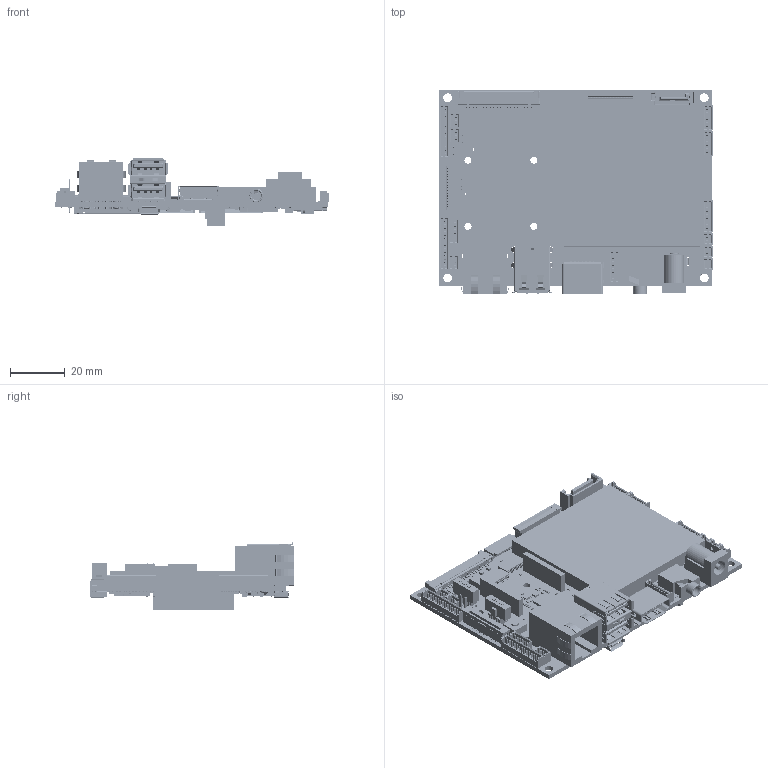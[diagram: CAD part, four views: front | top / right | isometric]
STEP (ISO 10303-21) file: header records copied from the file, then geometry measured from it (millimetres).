
FILE_DESCRIPTION(('Open CASCADE Model'),'2;1');
FILE_NAME('Open CASCADE Shape Model','2016-01-09T00:55:17',('Author'),( 'Open CASCADE'),'Open CASCADE STEP processor 6.5','Open CASCADE 6.5' ,'Unknown');
FILE_SCHEMA(('AUTOMOTIVE_DESIGN { 1 0 10303 214 1 1 1 1 }'));
Length unit declared in the file: millimetre
Products named in the file (708): PCB; Board; C119; 755050832; Extruded; 755050960; L45; 755048528; 577099152; L44; 755048144; 755048400; L43; 755047888; L42; L41; L40; L39; L38; L37; L36; L35; L34; L33; L32; L31; L30; U23; 755056976; 632997440; Cylinder; R156; 577103376; 577103632; R155; R154; 577095440; 577095312; R153; R152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
Assembly tree (2167 placements, depth 4):
  PCB
    Board
    C119
      755050832
        Extruded
      755050960  x2
        Extruded
    L45
      755048528
        Extruded
      577099152  x2
        Extruded
    L44
      755048144  x4
        Extruded
      755048400
        Extruded
    L43
      755047888
        Extruded
      755048144  x4
        Extruded
    L42
      755048144  x4
        Extruded
      755048400
        Extruded
    L41
      755047888
        Extruded
      755048144  x4
        Extruded
    L40
      755048144  x4
        Extruded
      755048400
        Extruded
    L39
      755047888
        Extruded
      755048144  x4
        Extruded
    L38
      755048144  x4
        Extruded
      755048400
        Extruded
    L37
      755047888
        Extruded
      755048144  x4
        Extruded
    L36
      755048144  x4
        Extruded
      755048400
        Extruded
    L35
      755048528
        Extruded
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Bounding box: 100.05 x 75.08 x 24.66 mm (x, y, z)
Volume: 39388.7 mm3; surface area: 49248.2 mm2
Topology: 1649 solids, 1649 shells, 21422 faces, 51915 edges, 34367 vertices
Faces by surface type: plane 19497, cylinder 1772, extrusion 61, cone 42, sphere 25, torus 18, bspline 7
Full cylindrical faces by diameter (mm): 0.4 x9, 0.5 x79, 0.6 x4, 0.813 x9, 0.889 x18, 0.991 x6, 1.016 x4, 1.1 x1, 1.143 x2, 1.27 x2, 1.397 x2, 1.6 x5, 2.362 x5, 2.6 x4, 3.175 x2, 3.2 x4
Entity records: 646881 total; most frequent: CARTESIAN_POINT 145142, DIRECTION 88925, VECTOR 59472, LINE 59411, ORIENTED_EDGE 48606, PCURVE 48606, DEFINITIONAL_REPRESENTATION 48606, EDGE_CURVE 24303
